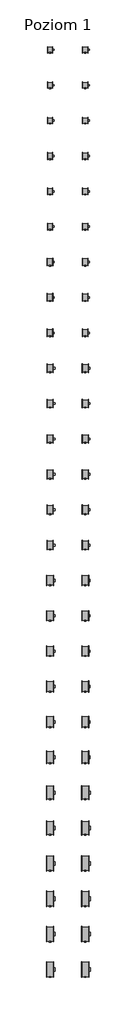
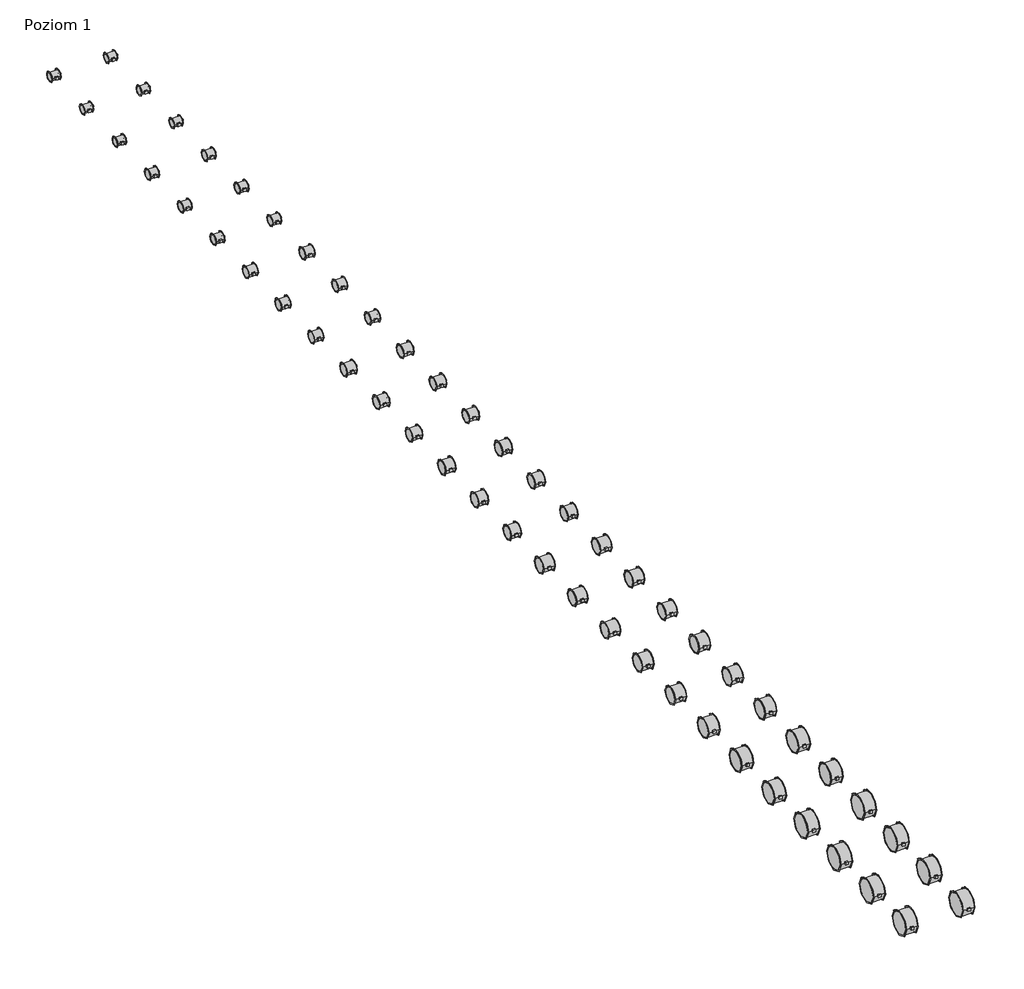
# One storey: 54 unitary equipment elements.
"""IFC4 building model written with IfcOpenShell, lengths in millimetres."""

from ifc_helpers import new_model, si_unit, origin, place, context, project, spatial, transform, mapped, element, save
from components import unitary_equipment_6894d806, unitary_equipment_61c55f46, unitary_equipment_65188c4b, unitary_equipment_a1bf6dc9, unitary_equipment_40dfa68d, unitary_equipment_d049be31, unitary_equipment_280_2_2200s_1ad16082, unitary_equipment_315_2_3600s_e2174b6a, unitary_equipment_355_2_4800s_27590a7e, unitary_equipment_400_2_8100t_becce87e

model = new_model("IFC4")

# Units and contexts
model_context = context("Model", 3, world=origin())
ifc_project = project(units=[si_unit("LENGTHUNIT", "METRE", prefix="MILLI")], contexts=[model_context])

# Site, building, storey
site = spatial("IfcSite", under=ifc_project)
building = spatial("IfcBuilding", under=site)
storey = spatial("IfcBuildingStorey", under=building, Name="Poziom 1", Elevation=0.0)

# Unitary equipment
placement = place(None, origin())
unitary_equipment_shape = unitary_equipment_6894d806(model_context)
element("IfcUnitaryEquipment", 1, ObjectType="VE-Wentylator-ParaForma-Harmann-AXER-Nawiewny : 450/2/12500T", at=placement, inside=storey, context=model_context, shape_type="MappedRepresentation", body=[
    mapped(unitary_equipment_shape, transform((6582.5, -5000.0, 0.0), x_axis=(1.0, 0.0, 0.0), y_axis=(0.0, 1.0, 0.0), z_axis=(0.0, 0.0, 1.0))),
])
unitary_equipment_2_shape = unitary_equipment_61c55f46(model_context)
element("IfcUnitaryEquipment", 2, ObjectType="VE-Wentylator-ParaForma-Harmann-AXER-Nawiewny : 500/2/14500T", at=placement, inside=storey, context=model_context, shape_type="MappedRepresentation", body=[
    mapped(unitary_equipment_2_shape, transform((6582.5, -11000.0, 0.0), x_axis=(1.0, 0.0, 0.0), y_axis=(0.0, 1.0, 0.0), z_axis=(0.0, 0.0, 1.0))),
])
unitary_equipment_3_shape = unitary_equipment_65188c4b(model_context)
element("IfcUnitaryEquipment", 3, ObjectType="VE-Wentylator-ParaForma-Harmann-AXER-Nawiewny : 560/4/12000T", at=placement, inside=storey, context=model_context, shape_type="MappedRepresentation", body=[
    mapped(unitary_equipment_3_shape, transform((6582.5, -17000.0, 0.0), x_axis=(1.0, 0.0, 0.0), y_axis=(0.0, 1.0, 0.0), z_axis=(0.0, 0.0, 1.0))),
])
element("IfcUnitaryEquipment", 4, ObjectType="VE-Wentylator-ParaForma-Harmann-AXER-Nawiewny : 560/4/13800T", at=placement, inside=storey, context=model_context, shape_type="MappedRepresentation", body=[
    mapped(unitary_equipment_3_shape, transform((6582.5, -19000.0, 0.0), x_axis=(1.0, 0.0, 0.0), y_axis=(0.0, 1.0, 0.0), z_axis=(0.0, 0.0, 1.0))),
])
unitary_equipment_4_shape = unitary_equipment_a1bf6dc9(model_context)
element("IfcUnitaryEquipment", 5, ObjectType="VE-Wentylator-ParaForma-Harmann-AXER-Nawiewny : 630/4/17200T", at=placement, inside=storey, context=model_context, shape_type="MappedRepresentation", body=[
    mapped(unitary_equipment_4_shape, transform((6582.5, -21000.0, 0.0), x_axis=(1.0, 0.0, 0.0), y_axis=(0.0, 1.0, 0.0), z_axis=(0.0, 0.0, 1.0))),
])
unitary_equipment_5_shape = unitary_equipment_40dfa68d(model_context)
element("IfcUnitaryEquipment", 6, ObjectType="VE-Wentylator-ParaForma-Harmann-AXER-Nawiewny : 710/4/20500T", at=placement, inside=storey, context=model_context, shape_type="MappedRepresentation", body=[
    mapped(unitary_equipment_5_shape, transform((6582.5, -23000.0, 0.0), x_axis=(1.0, 0.0, 0.0), y_axis=(0.0, 1.0, 0.0), z_axis=(0.0, 0.0, 1.0))),
])
element("IfcUnitaryEquipment", 7, ObjectType="VE-Wentylator-ParaForma-Harmann-AXER-Nawiewny : 710/4/25500T", at=placement, inside=storey, context=model_context, shape_type="MappedRepresentation", body=[
    mapped(unitary_equipment_5_shape, transform((6582.5, -25000.0, 0.0), x_axis=(1.0, 0.0, 0.0), y_axis=(0.0, 1.0, 0.0), z_axis=(0.0, 0.0, 1.0))),
])
unitary_equipment_6_shape = unitary_equipment_d049be31(model_context)
element("IfcUnitaryEquipment", 8, ObjectType="VE-Wentylator-ParaForma-Harmann-AXER-Nawiewny : 800/4/30000T", at=placement, inside=storey, context=model_context, shape_type="MappedRepresentation", body=[
    mapped(unitary_equipment_6_shape, transform((6582.5, -27000.0, 0.0), x_axis=(1.0, 0.0, 0.0), y_axis=(0.0, 1.0, 0.0), z_axis=(0.0, 0.0, 1.0))),
])
element("IfcUnitaryEquipment", 9, ObjectType="VE-Wentylator-ParaForma-Harmann-AXER-Nawiewny : 800/4/36000T", at=placement, inside=storey, context=model_context, shape_type="MappedRepresentation", body=[
    mapped(unitary_equipment_6_shape, transform((6582.5, -29000.0, 0.0), x_axis=(1.0, 0.0, 0.0), y_axis=(0.0, 1.0, 0.0), z_axis=(0.0, 0.0, 1.0))),
])
element("IfcUnitaryEquipment", 10, ObjectType="VE-Wentylator-ParaForma-Harmann-AXER-Nawiewny : 800/4/38000T", at=placement, inside=storey, context=model_context, shape_type="MappedRepresentation", body=[
    mapped(unitary_equipment_6_shape, transform((6582.5, -31000.0, 0.0), x_axis=(1.0, 0.0, 0.0), y_axis=(0.0, 1.0, 0.0), z_axis=(0.0, 0.0, 1.0))),
])
element("IfcUnitaryEquipment", 11, ObjectType="VE-Wentylator-ParaForma-Harmann-AXER-Nawiewny : 800/4/43000T", at=placement, inside=storey, context=model_context, shape_type="MappedRepresentation", body=[
    mapped(unitary_equipment_6_shape, transform((6582.5, -33000.0, 0.0), x_axis=(1.0, 0.0, 0.0), y_axis=(0.0, 1.0, 0.0), z_axis=(0.0, 0.0, 1.0))),
])
element("IfcUnitaryEquipment", 12, ObjectType="VE-Wentylator-ParaForma-Harmann-AXER-Wywiewny : 450/2/12500T", at=placement, inside=storey, context=model_context, shape_type="MappedRepresentation", body=[
    mapped(unitary_equipment_shape, transform((4582.5, -5000.0, 0.0), x_axis=(1.0, 0.0, 0.0), y_axis=(0.0, 1.0, 0.0), z_axis=(0.0, 0.0, 1.0))),
])
element("IfcUnitaryEquipment", 13, ObjectType="VE-Wentylator-ParaForma-Harmann-AXER-Wywiewny : 500/2/14500T", at=placement, inside=storey, context=model_context, shape_type="MappedRepresentation", body=[
    mapped(unitary_equipment_2_shape, transform((4582.5, -11000.0, 0.0), x_axis=(1.0, 0.0, 0.0), y_axis=(0.0, 1.0, 0.0), z_axis=(0.0, 0.0, 1.0))),
])
element("IfcUnitaryEquipment", 14, ObjectType="VE-Wentylator-ParaForma-Harmann-AXER-Wywiewny : 560/4/12000T", at=placement, inside=storey, context=model_context, shape_type="MappedRepresentation", body=[
    mapped(unitary_equipment_3_shape, transform((4582.5, -17000.0, 0.0), x_axis=(1.0, 0.0, 0.0), y_axis=(0.0, 1.0, 0.0), z_axis=(0.0, 0.0, 1.0))),
])
element("IfcUnitaryEquipment", 15, ObjectType="VE-Wentylator-ParaForma-Harmann-AXER-Wywiewny : 560/4/13800T", at=placement, inside=storey, context=model_context, shape_type="MappedRepresentation", body=[
    mapped(unitary_equipment_3_shape, transform((4582.5, -19000.0, 0.0), x_axis=(1.0, 0.0, 0.0), y_axis=(0.0, 1.0, 0.0), z_axis=(0.0, 0.0, 1.0))),
])
element("IfcUnitaryEquipment", 16, ObjectType="VE-Wentylator-ParaForma-Harmann-AXER-Wywiewny : 630/4/17200T", at=placement, inside=storey, context=model_context, shape_type="MappedRepresentation", body=[
    mapped(unitary_equipment_4_shape, transform((4582.5, -21000.0, 0.0), x_axis=(1.0, 0.0, 0.0), y_axis=(0.0, 1.0, 0.0), z_axis=(0.0, 0.0, 1.0))),
])
element("IfcUnitaryEquipment", 17, ObjectType="VE-Wentylator-ParaForma-Harmann-AXER-Wywiewny : 710/4/20500T", at=placement, inside=storey, context=model_context, shape_type="MappedRepresentation", body=[
    mapped(unitary_equipment_5_shape, transform((4582.5, -23000.0, 0.0), x_axis=(1.0, 0.0, 0.0), y_axis=(0.0, 1.0, 0.0), z_axis=(0.0, 0.0, 1.0))),
])
element("IfcUnitaryEquipment", 18, ObjectType="VE-Wentylator-ParaForma-Harmann-AXER-Wywiewny : 710/4/25500T", at=placement, inside=storey, context=model_context, shape_type="MappedRepresentation", body=[
    mapped(unitary_equipment_5_shape, transform((4582.5, -25000.0, 0.0), x_axis=(1.0, 0.0, 0.0), y_axis=(0.0, 1.0, 0.0), z_axis=(0.0, 0.0, 1.0))),
])
element("IfcUnitaryEquipment", 19, ObjectType="VE-Wentylator-ParaForma-Harmann-AXER-Wywiewny : 800/4/30000T", at=placement, inside=storey, context=model_context, shape_type="MappedRepresentation", body=[
    mapped(unitary_equipment_6_shape, transform((4582.5, -27000.0, 0.0), x_axis=(1.0, 0.0, 0.0), y_axis=(0.0, 1.0, 0.0), z_axis=(0.0, 0.0, 1.0))),
])
element("IfcUnitaryEquipment", 20, ObjectType="VE-Wentylator-ParaForma-Harmann-AXER-Wywiewny : 800/4/36000T", at=placement, inside=storey, context=model_context, shape_type="MappedRepresentation", body=[
    mapped(unitary_equipment_6_shape, transform((4582.5, -29000.0, 0.0), x_axis=(1.0, 0.0, 0.0), y_axis=(0.0, 1.0, 0.0), z_axis=(0.0, 0.0, 1.0))),
])
element("IfcUnitaryEquipment", 21, ObjectType="VE-Wentylator-ParaForma-Harmann-AXER-Wywiewny : 800/4/38000T", at=placement, inside=storey, context=model_context, shape_type="MappedRepresentation", body=[
    mapped(unitary_equipment_6_shape, transform((4582.5, -31000.0, 0.0), x_axis=(1.0, 0.0, 0.0), y_axis=(0.0, 1.0, 0.0), z_axis=(0.0, 0.0, 1.0))),
])
element("IfcUnitaryEquipment", 22, ObjectType="VE-Wentylator-ParaForma-Harmann-AXER-Wywiewny : 800/4/43000T", at=placement, inside=storey, context=model_context, shape_type="MappedRepresentation", body=[
    mapped(unitary_equipment_6_shape, transform((4582.5, -33000.0, 0.0), x_axis=(1.0, 0.0, 0.0), y_axis=(0.0, 1.0, 0.0), z_axis=(0.0, 0.0, 1.0))),
])
unitary_equipment_280_2_2200s_shape = unitary_equipment_280_2_2200s_1ad16082(model_context)
element("IfcUnitaryEquipment", 23, ObjectType="VE-Wentylator-ParaForma-Harmann-AXER-Nawiewny : 280/2/2200S", at=placement, inside=storey, context=model_context, shape_type="MappedRepresentation", body=[
    mapped(unitary_equipment_280_2_2200s_shape, transform((6582.5, 19000.0, 0.0), x_axis=(1.0, 0.0, 0.0), y_axis=(0.0, 1.0, 0.0), z_axis=(0.0, 0.0, 1.0))),
])
element("IfcUnitaryEquipment", 24, ObjectType="VE-Wentylator-ParaForma-Harmann-AXER-Wywiewny : 280/2/2200S", at=placement, inside=storey, context=model_context, shape_type="MappedRepresentation", body=[
    mapped(unitary_equipment_280_2_2200s_shape, transform((4582.5, 19000.0, 0.0), x_axis=(1.0, 0.0, 0.0), y_axis=(0.0, 1.0, 0.0), z_axis=(0.0, 0.0, 1.0))),
])
element("IfcUnitaryEquipment", 25, ObjectType="VE-Wentylator-ParaForma-Harmann-AXER-Nawiewny : 280/2/2200T", at=placement, inside=storey, context=model_context, shape_type="MappedRepresentation", body=[
    mapped(unitary_equipment_280_2_2200s_shape, transform((6582.5, 17000.0, 0.0), x_axis=(1.0, 0.0, 0.0), y_axis=(0.0, 1.0, 0.0), z_axis=(0.0, 0.0, 1.0))),
])
element("IfcUnitaryEquipment", 26, ObjectType="VE-Wentylator-ParaForma-Harmann-AXER-Wywiewny : 280/2/2200T", at=placement, inside=storey, context=model_context, shape_type="MappedRepresentation", body=[
    mapped(unitary_equipment_280_2_2200s_shape, transform((4582.5, 17000.0, 0.0), x_axis=(1.0, 0.0, 0.0), y_axis=(0.0, 1.0, 0.0), z_axis=(0.0, 0.0, 1.0))),
])
element("IfcUnitaryEquipment", 27, ObjectType="VE-Wentylator-ParaForma-Harmann-AXER-Nawiewny : 280/4/2000S", at=placement, inside=storey, context=model_context, shape_type="MappedRepresentation", body=[
    mapped(unitary_equipment_280_2_2200s_shape, transform((6582.5, 15000.0, 0.0), x_axis=(1.0, 0.0, 0.0), y_axis=(0.0, 1.0, 0.0), z_axis=(0.0, 0.0, 1.0))),
])
element("IfcUnitaryEquipment", 28, ObjectType="VE-Wentylator-ParaForma-Harmann-AXER-Wywiewny : 280/4/2000S", at=placement, inside=storey, context=model_context, shape_type="MappedRepresentation", body=[
    mapped(unitary_equipment_280_2_2200s_shape, transform((4582.5, 15000.0, 0.0), x_axis=(1.0, 0.0, 0.0), y_axis=(0.0, 1.0, 0.0), z_axis=(0.0, 0.0, 1.0))),
])
unitary_equipment_315_2_3600s_shape = unitary_equipment_315_2_3600s_e2174b6a(model_context)
element("IfcUnitaryEquipment", 29, ObjectType="VE-Wentylator-ParaForma-Harmann-AXER-Nawiewny : 315/2/3600S", at=placement, inside=storey, context=model_context, shape_type="MappedRepresentation", body=[
    mapped(unitary_equipment_315_2_3600s_shape, transform((6582.5, 13000.0, 0.0), x_axis=(1.0, 0.0, 0.0), y_axis=(0.0, 1.0, 0.0), z_axis=(0.0, 0.0, 1.0))),
])
element("IfcUnitaryEquipment", 30, ObjectType="VE-Wentylator-ParaForma-Harmann-AXER-Wywiewny : 315/2/3600S", at=placement, inside=storey, context=model_context, shape_type="MappedRepresentation", body=[
    mapped(unitary_equipment_315_2_3600s_shape, transform((4582.5, 13000.0, 0.0), x_axis=(1.0, 0.0, 0.0), y_axis=(0.0, 1.0, 0.0), z_axis=(0.0, 0.0, 1.0))),
])
element("IfcUnitaryEquipment", 31, ObjectType="VE-Wentylator-ParaForma-Harmann-AXER-Nawiewny : 315/2/3600T", at=placement, inside=storey, context=model_context, shape_type="MappedRepresentation", body=[
    mapped(unitary_equipment_315_2_3600s_shape, transform((6582.5, 11000.0, 0.0), x_axis=(1.0, 0.0, 0.0), y_axis=(0.0, 1.0, 0.0), z_axis=(0.0, 0.0, 1.0))),
])
element("IfcUnitaryEquipment", 32, ObjectType="VE-Wentylator-ParaForma-Harmann-AXER-Wywiewny : 315/2/3600T", at=placement, inside=storey, context=model_context, shape_type="MappedRepresentation", body=[
    mapped(unitary_equipment_315_2_3600s_shape, transform((4582.5, 11000.0, 0.0), x_axis=(1.0, 0.0, 0.0), y_axis=(0.0, 1.0, 0.0), z_axis=(0.0, 0.0, 1.0))),
])
element("IfcUnitaryEquipment", 33, ObjectType="VE-Wentylator-ParaForma-Harmann-AXER-Nawiewny : 315/4/3000S", at=placement, inside=storey, context=model_context, shape_type="MappedRepresentation", body=[
    mapped(unitary_equipment_315_2_3600s_shape, transform((6582.5, 9000.0, 0.0), x_axis=(1.0, 0.0, 0.0), y_axis=(0.0, 1.0, 0.0), z_axis=(0.0, 0.0, 1.0))),
])
element("IfcUnitaryEquipment", 34, ObjectType="VE-Wentylator-ParaForma-Harmann-AXER-Wywiewny : 315/4/3000S", at=placement, inside=storey, context=model_context, shape_type="MappedRepresentation", body=[
    mapped(unitary_equipment_315_2_3600s_shape, transform((4582.5, 9000.0, 0.0), x_axis=(1.0, 0.0, 0.0), y_axis=(0.0, 1.0, 0.0), z_axis=(0.0, 0.0, 1.0))),
])
unitary_equipment_355_2_4800s_shape = unitary_equipment_355_2_4800s_27590a7e(model_context)
element("IfcUnitaryEquipment", 35, ObjectType="VE-Wentylator-ParaForma-Harmann-AXER-Nawiewny : 355/2/4800S", at=placement, inside=storey, context=model_context, shape_type="MappedRepresentation", body=[
    mapped(unitary_equipment_355_2_4800s_shape, transform((6582.5, 7000.0, 0.0), x_axis=(1.0, 0.0, 0.0), y_axis=(0.0, 1.0, 0.0), z_axis=(0.0, 0.0, 1.0))),
])
element("IfcUnitaryEquipment", 36, ObjectType="VE-Wentylator-ParaForma-Harmann-AXER-Wywiewny : 355/2/4800S", at=placement, inside=storey, context=model_context, shape_type="MappedRepresentation", body=[
    mapped(unitary_equipment_355_2_4800s_shape, transform((4582.5, 7000.0, 0.0), x_axis=(1.0, 0.0, 0.0), y_axis=(0.0, 1.0, 0.0), z_axis=(0.0, 0.0, 1.0))),
])
element("IfcUnitaryEquipment", 37, ObjectType="VE-Wentylator-ParaForma-Harmann-AXER-Nawiewny : 355/2/4800T", at=placement, inside=storey, context=model_context, shape_type="MappedRepresentation", body=[
    mapped(unitary_equipment_355_2_4800s_shape, transform((6582.5, 5000.0, 0.0), x_axis=(1.0, 0.0, 0.0), y_axis=(0.0, 1.0, 0.0), z_axis=(0.0, 0.0, 1.0))),
])
element("IfcUnitaryEquipment", 38, ObjectType="VE-Wentylator-ParaForma-Harmann-AXER-Wywiewny : 355/2/4800T", at=placement, inside=storey, context=model_context, shape_type="MappedRepresentation", body=[
    mapped(unitary_equipment_355_2_4800s_shape, transform((4582.5, 5000.0, 0.0), x_axis=(1.0, 0.0, 0.0), y_axis=(0.0, 1.0, 0.0), z_axis=(0.0, 0.0, 1.0))),
])
element("IfcUnitaryEquipment", 39, ObjectType="VE-Wentylator-ParaForma-Harmann-AXER-Nawiewny : 355/4/4100T", at=placement, inside=storey, context=model_context, shape_type="MappedRepresentation", body=[
    mapped(unitary_equipment_355_2_4800s_shape, transform((6582.5, 3000.0, 0.0), x_axis=(1.0, 0.0, 0.0), y_axis=(0.0, 1.0, 0.0), z_axis=(0.0, 0.0, 1.0))),
])
element("IfcUnitaryEquipment", 40, ObjectType="VE-Wentylator-ParaForma-Harmann-AXER-Wywiewny : 355/4/4100T", at=placement, inside=storey, context=model_context, shape_type="MappedRepresentation", body=[
    mapped(unitary_equipment_355_2_4800s_shape, transform((4582.5, 3000.0, 0.0), x_axis=(1.0, 0.0, 0.0), y_axis=(0.0, 1.0, 0.0), z_axis=(0.0, 0.0, 1.0))),
])
unitary_equipment_400_2_8100t_shape = unitary_equipment_400_2_8100t_becce87e(model_context)
element("IfcUnitaryEquipment", 41, ObjectType="VE-Wentylator-ParaForma-Harmann-AXER-Nawiewny : 400/2/8100T", at=placement, inside=storey, context=model_context, shape_type="MappedRepresentation", body=[
    mapped(unitary_equipment_400_2_8100t_shape, transform((6582.5, 1000.0, 0.0), x_axis=(1.0, 0.0, 0.0), y_axis=(0.0, 1.0, 0.0), z_axis=(0.0, 0.0, 1.0))),
])
element("IfcUnitaryEquipment", 42, ObjectType="VE-Wentylator-ParaForma-Harmann-AXER-Wywiewny : 400/2/8100T", at=placement, inside=storey, context=model_context, shape_type="MappedRepresentation", body=[
    mapped(unitary_equipment_400_2_8100t_shape, transform((4582.5, 1000.0, 0.0), x_axis=(1.0, 0.0, 0.0), y_axis=(0.0, 1.0, 0.0), z_axis=(0.0, 0.0, 1.0))),
])
element("IfcUnitaryEquipment", 43, ObjectType="VE-Wentylator-ParaForma-Harmann-AXER-Nawiewny : 400/4/5600T", at=placement, inside=storey, context=model_context, shape_type="MappedRepresentation", body=[
    mapped(unitary_equipment_400_2_8100t_shape, transform((6582.5, -1000.0, 0.0), x_axis=(1.0, 0.0, 0.0), y_axis=(0.0, 1.0, 0.0), z_axis=(0.0, 0.0, 1.0))),
])
element("IfcUnitaryEquipment", 44, ObjectType="VE-Wentylator-ParaForma-Harmann-AXER-Wywiewny : 400/4/5600T", at=placement, inside=storey, context=model_context, shape_type="MappedRepresentation", body=[
    mapped(unitary_equipment_400_2_8100t_shape, transform((4582.5, -1000.0, 0.0), x_axis=(1.0, 0.0, 0.0), y_axis=(0.0, 1.0, 0.0), z_axis=(0.0, 0.0, 1.0))),
])
element("IfcUnitaryEquipment", 45, ObjectType="VE-Wentylator-ParaForma-Harmann-AXER-Nawiewny : 400/4/6200T", at=placement, inside=storey, context=model_context, shape_type="MappedRepresentation", body=[
    mapped(unitary_equipment_400_2_8100t_shape, transform((6582.5, -3000.0, 0.0), x_axis=(1.0, 0.0, 0.0), y_axis=(0.0, 1.0, 0.0), z_axis=(0.0, 0.0, 1.0))),
])
element("IfcUnitaryEquipment", 46, ObjectType="VE-Wentylator-ParaForma-Harmann-AXER-Wywiewny : 400/4/6200T", at=placement, inside=storey, context=model_context, shape_type="MappedRepresentation", body=[
    mapped(unitary_equipment_400_2_8100t_shape, transform((4582.5, -3000.0, 0.0), x_axis=(1.0, 0.0, 0.0), y_axis=(0.0, 1.0, 0.0), z_axis=(0.0, 0.0, 1.0))),
])
element("IfcUnitaryEquipment", 47, ObjectType="VE-Wentylator-ParaForma-Harmann-AXER-Nawiewny : 450/4/7400T", at=placement, inside=storey, context=model_context, shape_type="MappedRepresentation", body=[
    mapped(unitary_equipment_shape, transform((6582.5, -7000.0, 0.0), x_axis=(1.0, 0.0, 0.0), y_axis=(0.0, 1.0, 0.0), z_axis=(0.0, 0.0, 1.0))),
])
element("IfcUnitaryEquipment", 48, ObjectType="VE-Wentylator-ParaForma-Harmann-AXER-Wywiewny : 450/4/7400T", at=placement, inside=storey, context=model_context, shape_type="MappedRepresentation", body=[
    mapped(unitary_equipment_shape, transform((4582.5, -7000.0, 0.0), x_axis=(1.0, 0.0, 0.0), y_axis=(0.0, 1.0, 0.0), z_axis=(0.0, 0.0, 1.0))),
])
element("IfcUnitaryEquipment", 49, ObjectType="VE-Wentylator-ParaForma-Harmann-AXER-Nawiewny : 450/4/8800T", at=placement, inside=storey, context=model_context, shape_type="MappedRepresentation", body=[
    mapped(unitary_equipment_shape, transform((6582.5, -9000.0, 0.0), x_axis=(1.0, 0.0, 0.0), y_axis=(0.0, 1.0, 0.0), z_axis=(0.0, 0.0, 1.0))),
])
element("IfcUnitaryEquipment", 50, ObjectType="VE-Wentylator-ParaForma-Harmann-AXER-Wywiewny : 450/4/8800T", at=placement, inside=storey, context=model_context, shape_type="MappedRepresentation", body=[
    mapped(unitary_equipment_shape, transform((4582.5, -9000.0, 0.0), x_axis=(1.0, 0.0, 0.0), y_axis=(0.0, 1.0, 0.0), z_axis=(0.0, 0.0, 1.0))),
])
element("IfcUnitaryEquipment", 51, ObjectType="VE-Wentylator-ParaForma-Harmann-AXER-Nawiewny : 500/4/8400T", at=placement, inside=storey, context=model_context, shape_type="MappedRepresentation", body=[
    mapped(unitary_equipment_2_shape, transform((6582.5, -13000.0, 0.0), x_axis=(1.0, 0.0, 0.0), y_axis=(0.0, 1.0, 0.0), z_axis=(0.0, 0.0, 1.0))),
])
element("IfcUnitaryEquipment", 52, ObjectType="VE-Wentylator-ParaForma-Harmann-AXER-Wywiewny : 500/4/8400T", at=placement, inside=storey, context=model_context, shape_type="MappedRepresentation", body=[
    mapped(unitary_equipment_2_shape, transform((4582.5, -13000.0, 0.0), x_axis=(1.0, 0.0, 0.0), y_axis=(0.0, 1.0, 0.0), z_axis=(0.0, 0.0, 1.0))),
])
element("IfcUnitaryEquipment", 53, ObjectType="VE-Wentylator-ParaForma-Harmann-AXER-Nawiewny : 500/4/9000T", at=placement, inside=storey, context=model_context, shape_type="MappedRepresentation", body=[
    mapped(unitary_equipment_2_shape, transform((6582.5, -15000.0, 0.0), x_axis=(1.0, 0.0, 0.0), y_axis=(0.0, 1.0, 0.0), z_axis=(0.0, 0.0, 1.0))),
])
element("IfcUnitaryEquipment", 54, ObjectType="VE-Wentylator-ParaForma-Harmann-AXER-Wywiewny : 500/4/9000T", at=placement, inside=storey, context=model_context, shape_type="MappedRepresentation", body=[
    mapped(unitary_equipment_2_shape, transform((4582.5, -15000.0, 0.0), x_axis=(1.0, 0.0, 0.0), y_axis=(0.0, 1.0, 0.0), z_axis=(0.0, 0.0, 1.0))),
])

save(model, "model.ifc")
